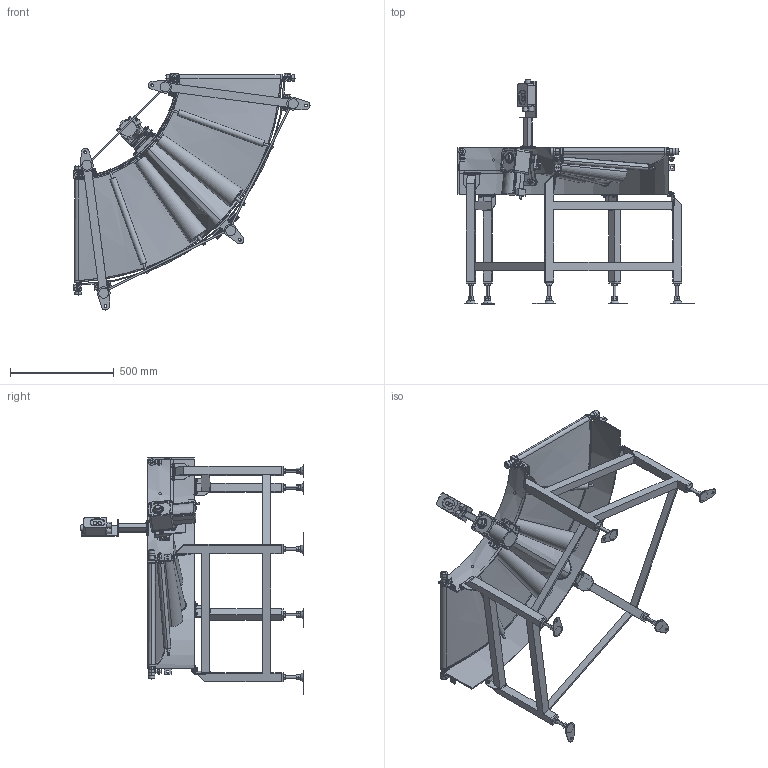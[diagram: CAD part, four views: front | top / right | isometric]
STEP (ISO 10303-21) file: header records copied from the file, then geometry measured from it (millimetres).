
FILE_DESCRIPTION( (''), '2;1');
FILE_NAME ('FNC-309-500-90°-L-K-100.stp','2025-02-17T15:38:36',(''),(''),'spGate 20.6.2 (****-****-****-****)','','');
FILE_SCHEMA (('AUTOMOTIVE_DESIGN'));
Length unit declared in the file: millimetre
Products named in the file (53): NewModel; TEMP_X_T-prt0; TEMP_X_T-prt1; TEMP_X_T-prt2; TEMP_X_T-prt3; TEMP_X_T-prt4; TEMP_X_T-prt5; TEMP_X_T-prt6; TEMP_X_T-prt7; TEMP_X_T-prt8; TEMP_X_T-prt9; TEMP_X_T-prt10; TEMP_X_T-prt11; TEMP_X_T-prt12; TEMP_X_T-prt13; TEMP_X_T-prt14; TEMP_X_T-prt15; TEMP_X_T-prt16; TEMP_X_T-prt17; TEMP_X_T-prt18; TEMP_X_T-prt19; TEMP_X_T-prt20; TEMP_X_T-prt21; TEMP_X_T-prt22; TEMP_X_T-prt23; TEMP_X_T-prt24; TEMP_X_T-prt25; TEMP_X_T-prt26; TEMP_X_T-prt27; TEMP_X_T-prt28; TEMP_X_T-prt29; TEMP_X_T-prt30; TEMP_X_T-prt31; TEMP_X_T-prt32; TEMP_X_T-prt33; TEMP_X_T-prt34; TEMP_X_T-prt35; TEMP_X_T-prt36; TEMP_X_T-prt37; TEMP_X_T-prt38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
Assembly tree (52 placements, depth 2):
  NewModel
    TEMP_X_T-prt0
    TEMP_X_T-prt1
    TEMP_X_T-prt2
    TEMP_X_T-prt3
    TEMP_X_T-prt4
    TEMP_X_T-prt5
    TEMP_X_T-prt6
    TEMP_X_T-prt7
    TEMP_X_T-prt8
    TEMP_X_T-prt9
    TEMP_X_T-prt10
    TEMP_X_T-prt11
    TEMP_X_T-prt12
    TEMP_X_T-prt13
    TEMP_X_T-prt14
    TEMP_X_T-prt15
    TEMP_X_T-prt16
    TEMP_X_T-prt17
    TEMP_X_T-prt18
    TEMP_X_T-prt19
    TEMP_X_T-prt20
    TEMP_X_T-prt21
    TEMP_X_T-prt22
    TEMP_X_T-prt23
    TEMP_X_T-prt24
    TEMP_X_T-prt25
    TEMP_X_T-prt26
    TEMP_X_T-prt27
    TEMP_X_T-prt28
    TEMP_X_T-prt29
    TEMP_X_T-prt30
    TEMP_X_T-prt31
    TEMP_X_T-prt32
    TEMP_X_T-prt33
    TEMP_X_T-prt34
    TEMP_X_T-prt35
    TEMP_X_T-prt36
    TEMP_X_T-prt37
    TEMP_X_T-prt38
    TEMP_X_T-prt39
    TEMP_X_T-prt40
    TEMP_X_T-prt41
    TEMP_X_T-prt42
    TEMP_X_T-prt43
    TEMP_X_T-prt44
    TEMP_X_T-prt45
    TEMP_X_T-prt46
    TEMP_X_T-prt47
    TEMP_X_T-prt48
    TEMP_X_T-prt49
    TEMP_X_T-prt50
    TEMP_X_T-prt51
Bounding box: 1140.35 x 1081.5 x 1140.35 mm (x, y, z)
Volume: 55137450.7 mm3; surface area: 4431595.6 mm2
Topology: 52 solids, 52 shells, 2099 faces, 5072 edges, 3309 vertices
Faces by surface type: plane 1345, cylinder 550, bspline 204
Entity records: 113842 total; most frequent: CARTESIAN_POINT 23037, ORIENTED_EDGE 10128, DIRECTION 9589, COLOUR_RGB 7215, PRESENTATION_STYLE_ASSIGNMENT 7215, STYLED_ITEM 7215, EDGE_CURVE 5064, DRAUGHTING_PRE_DEFINED_CURVE_FONT 5064
